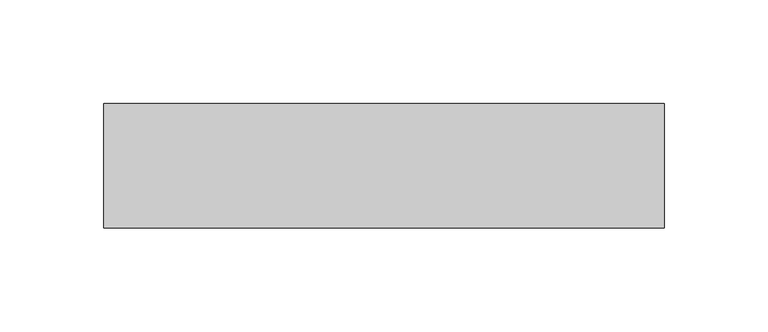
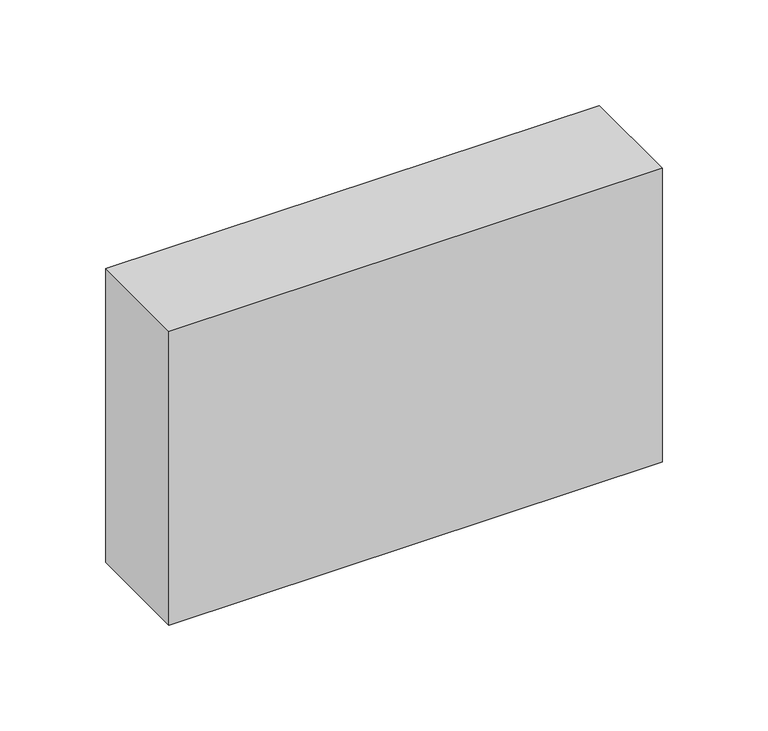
"""IFC4 building model written with IfcOpenShell, lengths in millimetres: plate geometry, Системная панель : Алюкобонд серый."""

from ifc_helpers import new_model, si_unit, origin, origin_with_axes, place, context, project, spatial, polyline, outline, extrude, source, transform, mapped, element, save


def plate_784e5136(model_context):
    return source(origin(), model_context, "Body", "SweptSolid", [
        extrude(outline(polyline([(135.0, -10.5), (-135.0, -10.5), (-135.0, 49.5), (135.0, 49.5), (135.0, -10.5)])), origin_with_axes(), (0.0, 0.0, 1.0), 170.0),
    ])


if __name__ == "__main__":
    model = new_model("IFC4")
    model_context = context("Model", 3, world=origin())
    ifc_project = project(units=[si_unit("LENGTHUNIT", "METRE", prefix="MILLI")], contexts=[model_context])
    site = spatial("IfcSite", under=ifc_project)
    building = spatial("IfcBuilding", under=site)
    placement = place(None, origin())
    plate_shape = plate_784e5136(model_context)
    element("IfcPlate", 1, ObjectType="Системная панель : Алюкобонд серый", at=placement, inside=building, context=model_context, shape_type="MappedRepresentation", body=[
        mapped(plate_shape, transform((0.0, 0.0, 0.0), x_axis=(1.0, 0.0, 0.0), y_axis=(0.0, 1.0, 0.0), z_axis=(0.0, 0.0, 1.0))),
    ])
    save(model, "model.ifc")
